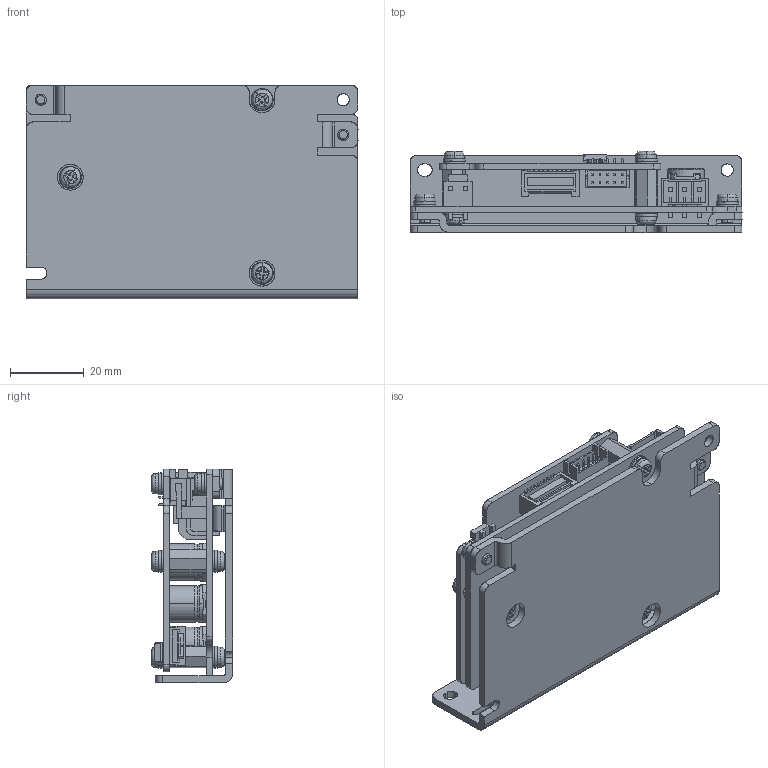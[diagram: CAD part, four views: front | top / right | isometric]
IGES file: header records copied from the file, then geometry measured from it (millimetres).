
Start section: SolidWorks IGES file using analytic representation for surfaces
Global section: file name: C:\Users\5717\Desktop\PDBA-50F提出\PDBA-50F.IGS,1; native system: 5HSolidWorks 2018; preprocessor: SolidWorks 2018; author: 5717; date: 190703.094315; units: millimetre
Bounding box: 90 x 22 x 58 mm (x, y, z)
Surface area: 40659.6 mm2 (no closed solid volume)
Topology: 0 solids, 0 shells, 2152 faces, 18575 edges, 18563 vertices
Faces by surface type: bspline 1629, revolution 523
